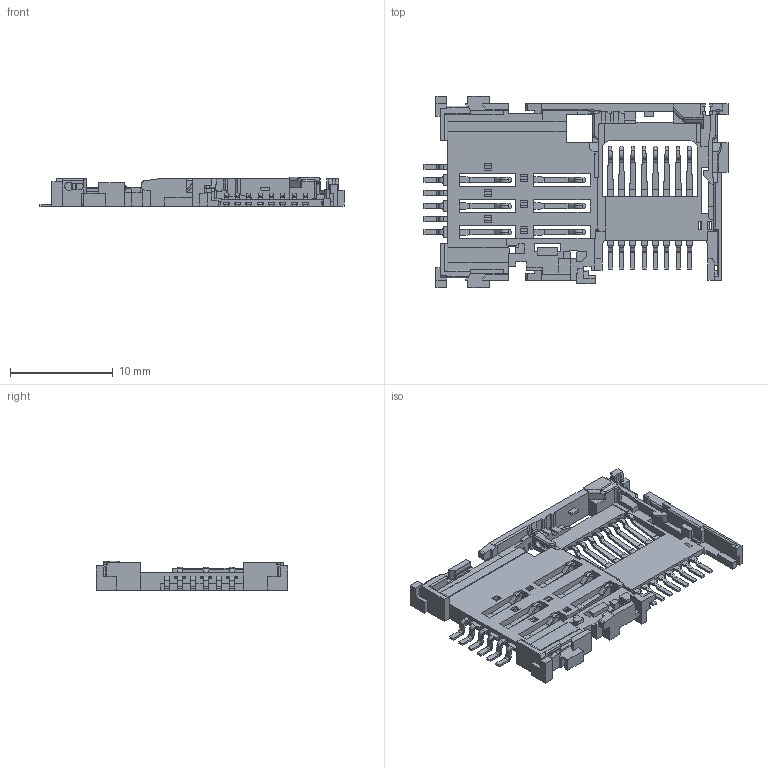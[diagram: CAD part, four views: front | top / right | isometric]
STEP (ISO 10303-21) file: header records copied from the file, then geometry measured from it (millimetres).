
FILE_DESCRIPTION((''),'2;1');
FILE_NAME('DSC20-14XXX1X_AF0_ASM_1_ASM','2008-06-30T',('GRA'),(''),'PRO/ENGINEER BY PARAMETRIC TECHNOLOGY CORPORATION, 2006170','PRO/ENGINEER BY PARAMETRIC TECHNOLOGY CORPORATION, 2006170','');
FILE_SCHEMA(('CONFIG_CONTROL_DESIGN'));
Length unit declared in the file: millimetre
Products named in the file (7): I-DSC20-A14XX0_AF0_1_PRT; T-DSC20-100X00_1_PRT; T-DSC20-100X00-C_AF0_ASM_1_ASM; T-DSC20-200X00-1_1_PRT; T-DSC20-200X00-2_1_PRT; T-DSC20-200X00-C_AF0_ASM_1_ASM; DSC20-14XXX1X_AF0_ASM_1_ASM
Assembly tree (17 placements, depth 3):
  DSC20-14XXX1X_AF0_ASM_1_ASM
    I-DSC20-A14XX0_AF0_1_PRT
    T-DSC20-100X00-C_AF0_ASM_1_ASM
      T-DSC20-100X00_1_PRT  x8
    T-DSC20-200X00-C_AF0_ASM_1_ASM
      T-DSC20-200X00-1_1_PRT  x3
      T-DSC20-200X00-2_1_PRT  x3
Bounding box: 29.56 x 18.6 x 2.85 mm (x, y, z)
Volume: 396.3 mm3; surface area: 1654.5 mm2
Topology: 15 solids, 15 shells, 1599 faces, 4555 edges, 2958 vertices
Faces by surface type: plane 1164, cylinder 328, bspline 52, sphere 25, cone 24, torus 6
Entity records: 34878 total; most frequent: CARTESIAN_POINT 6919, ORIENTED_EDGE 6046, DIRECTION 5403, EDGE_CURVE 3023, VECTOR 2581, LINE 2581, VERTEX_POINT 1992, AXIS2_PLACEMENT_3D 1411
